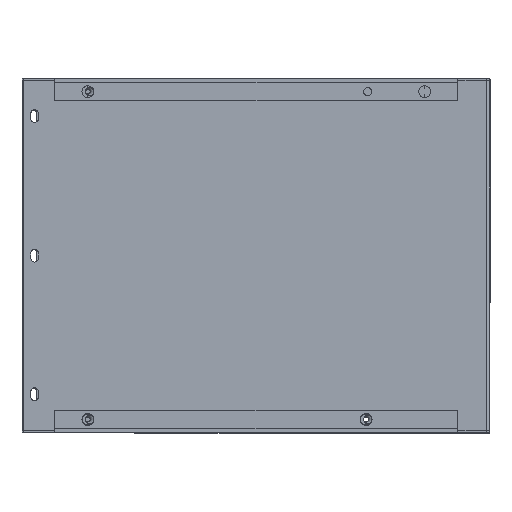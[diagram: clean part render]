
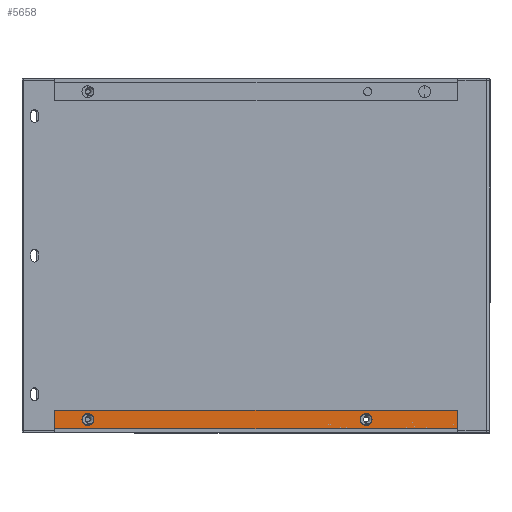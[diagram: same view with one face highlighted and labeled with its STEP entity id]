
A CAD part, top view. The second image highlights one B-rep face of the part: STEP entity #5658.
In plain terms, the highlighted planar face has unit normal (0, 0, 1).
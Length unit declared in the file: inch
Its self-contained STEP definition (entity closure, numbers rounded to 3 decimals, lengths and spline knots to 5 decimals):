
#14 = CARTESIAN_POINT ( 'NONE',  ( -1.07, 0.06, 0. ) ) ;
#52 = CARTESIAN_POINT ( 'NONE',  ( -13.678, 0.5865, 0. ) ) ;
#1318 = CARTESIAN_POINT ( 'NONE',  ( -14.803, 0.695, 0. ) ) ;
#1323 = PLANE ( 'NONE',  #7883 ) ;
#1324 = DIRECTION ( 'NONE',  ( 0., 0., -1. ) ) ;
#1325 = DIRECTION ( 'NONE',  ( 0., 1., 0. ) ) ;
#1908 = CARTESIAN_POINT ( 'NONE',  ( -13.678, 0.383, 0. ) ) ;
#1909 = DIRECTION ( 'NONE',  ( 0., 0., -1. ) ) ;
#1910 = DIRECTION ( 'NONE',  ( 0., 1., 0. ) ) ;
#1911 = CARTESIAN_POINT ( 'NONE',  ( -4.178, 0.383, 0. ) ) ;
#1912 = DIRECTION ( 'NONE',  ( 0., 0., -1. ) ) ;
#1913 = DIRECTION ( 'NONE',  ( 0., 1., 0. ) ) ;
#2398 = CARTESIAN_POINT ( 'NONE',  ( -14.803, 0., 0. ) ) ;
#2399 = DIRECTION ( 'NONE',  ( 0., 1., 0. ) ) ;
#2424 = CARTESIAN_POINT ( 'NONE',  ( -4.178, 0.383, 0. ) ) ;
#2425 = CARTESIAN_POINT ( 'NONE',  ( -14.803, 0.06, 0. ) ) ;
#2426 = DIRECTION ( 'NONE',  ( -1., 0., 0. ) ) ;
#2427 = CARTESIAN_POINT ( 'NONE',  ( -13.678, 0.383, 0. ) ) ;
#2430 = DIRECTION ( 'NONE',  ( 0., 0., -1. ) ) ;
#2431 = DIRECTION ( 'NONE',  ( 0., 1., 0. ) ) ;
#2432 = DIRECTION ( 'NONE',  ( 0., 0., -1. ) ) ;
#2433 = DIRECTION ( 'NONE',  ( 0., 1., 0. ) ) ;
#2435 = CARTESIAN_POINT ( 'NONE',  ( -1.07, 0.695, 0. ) ) ;
#2436 = DIRECTION ( 'NONE',  ( 0., -1., 0. ) ) ;
#2439 = CARTESIAN_POINT ( 'NONE',  ( -14.803, 0.695, 0. ) ) ;
#2440 = DIRECTION ( 'NONE',  ( 1., 0., 0. ) ) ;
#2766 = LINE ( 'NONE', #2398, #2767 ) ;
#2767 = VECTOR ( 'NONE', #2399, 39.37008 ) ;
#2781 = LINE ( 'NONE', #2425, #2782 ) ;
#2782 = VECTOR ( 'NONE', #2426, 39.37008 ) ;
#2784 = LINE ( 'NONE', #2435, #2786 ) ;
#2786 = VECTOR ( 'NONE', #2436, 39.37008 ) ;
#2787 = CIRCLE ( 'NONE', #8094, 0.2035 ) ;
#2789 = CIRCLE ( 'NONE', #8091, 0.2035 ) ;
#2791 = LINE ( 'NONE', #2439, #2792 ) ;
#2792 = VECTOR ( 'NONE', #2440, 39.37008 ) ;
#4319 = VERTEX_POINT ( 'NONE', #4665 ) ;
#4391 = VERTEX_POINT ( 'NONE', #4721 ) ;
#4428 = VERTEX_POINT ( 'NONE', #4705 ) ;
#4459 = VERTEX_POINT ( 'NONE', #4646 ) ;
#4466 = VERTEX_POINT ( 'NONE', #5123 ) ;
#4475 = VERTEX_POINT ( 'NONE', #5131 ) ;
#4530 = VERTEX_POINT ( 'NONE', #14 ) ;
#4568 = VERTEX_POINT ( 'NONE', #52 ) ;
#4624 = EDGE_LOOP ( 'NONE', ( #7373, #7374 ) ) ;
#4646 = CARTESIAN_POINT ( 'NONE',  ( -14.803, 0.695, 0. ) ) ;
#4665 = CARTESIAN_POINT ( 'NONE',  ( -13.678, 0.1795, 0. ) ) ;
#4705 = CARTESIAN_POINT ( 'NONE',  ( -1.07, 0.695, 0. ) ) ;
#4721 = CARTESIAN_POINT ( 'NONE',  ( -4.178, 0.1795, 0. ) ) ;
#4845 = EDGE_LOOP ( 'NONE', ( #7375, #7376, #7377, #7378 ) ) ;
#4853 = EDGE_LOOP ( 'NONE', ( #7371, #7372 ) ) ;
#5123 = CARTESIAN_POINT ( 'NONE',  ( -4.178, 0.5865, 0. ) ) ;
#5131 = CARTESIAN_POINT ( 'NONE',  ( -14.803, 0.06, 0. ) ) ;
#5658 = ADVANCED_FACE ( 'NONE', ( #9099, #9105, #9107 ), #1323, .F. ) ;
#5884 = EDGE_CURVE ( 'NONE', #4568, #4319, #9457, .T. ) ;
#5885 = EDGE_CURVE ( 'NONE', #4466, #4391, #9458, .T. ) ;
#6088 = EDGE_CURVE ( 'NONE', #4475, #4459, #2766, .T. ) ;
#6098 = EDGE_CURVE ( 'NONE', #4530, #4475, #2781, .T. ) ;
#6100 = EDGE_CURVE ( 'NONE', #4319, #4568, #2787, .T. ) ;
#6101 = EDGE_CURVE ( 'NONE', #4391, #4466, #2789, .T. ) ;
#6102 = EDGE_CURVE ( 'NONE', #4428, #4530, #2784, .T. ) ;
#6104 = EDGE_CURVE ( 'NONE', #4459, #4428, #2791, .T. ) ;
#7371 = ORIENTED_EDGE ( 'NONE', *, *, #5885, .T. ) ;
#7372 = ORIENTED_EDGE ( 'NONE', *, *, #6101, .T. ) ;
#7373 = ORIENTED_EDGE ( 'NONE', *, *, #5884, .T. ) ;
#7374 = ORIENTED_EDGE ( 'NONE', *, *, #6100, .T. ) ;
#7375 = ORIENTED_EDGE ( 'NONE', *, *, #6098, .F. ) ;
#7376 = ORIENTED_EDGE ( 'NONE', *, *, #6102, .F. ) ;
#7377 = ORIENTED_EDGE ( 'NONE', *, *, #6104, .F. ) ;
#7378 = ORIENTED_EDGE ( 'NONE', *, *, #6088, .F. ) ;
#7883 = AXIS2_PLACEMENT_3D ( 'NONE', #1318, #1324, #1325 ) ;
#8003 = AXIS2_PLACEMENT_3D ( 'NONE', #1908, #1909, #1910 ) ;
#8004 = AXIS2_PLACEMENT_3D ( 'NONE', #1911, #1912, #1913 ) ;
#8091 = AXIS2_PLACEMENT_3D ( 'NONE', #2424, #2432, #2433 ) ;
#8094 = AXIS2_PLACEMENT_3D ( 'NONE', #2427, #2430, #2431 ) ;
#9099 = FACE_BOUND ( 'NONE', #4853, .T. ) ;
#9105 = FACE_BOUND ( 'NONE', #4624, .T. ) ;
#9107 = FACE_OUTER_BOUND ( 'NONE', #4845, .T. ) ;
#9457 = CIRCLE ( 'NONE', #8003, 0.2035 ) ;
#9458 = CIRCLE ( 'NONE', #8004, 0.2035 ) ;
